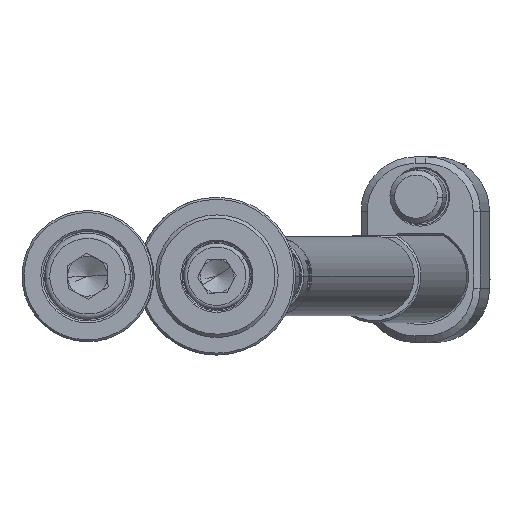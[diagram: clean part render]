
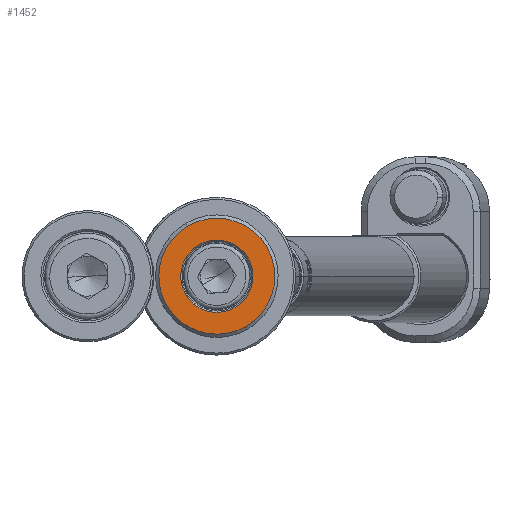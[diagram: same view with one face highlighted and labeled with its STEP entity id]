
A CAD part, front view. The second image highlights one B-rep face of the part: STEP entity #1452.
In plain terms, the highlighted planar face has unit normal (0, -1, 0).
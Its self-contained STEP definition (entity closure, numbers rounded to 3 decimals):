
#8 = CARTESIAN_POINT ( 'NONE',  ( 0., -4., 0. ) ) ;
#398 = DIRECTION ( 'NONE',  ( 0., 1., 0. ) ) ;
#801 = FACE_BOUND ( 'NONE', #5168, .T. ) ;
#1157 = VERTEX_POINT ( 'NONE', #11598 ) ;
#1166 = DIRECTION ( 'NONE',  ( 0., -1., 0. ) ) ;
#1180 = DIRECTION ( 'NONE',  ( -0.505, 0., 0.863 ) ) ;
#1452 = ADVANCED_FACE ( 'NONE', ( #801, #5248 ), #9692, .F. ) ;
#1716 = AXIS2_PLACEMENT_3D ( 'NONE', #2007, #8477, #6155 ) ;
#1943 = ORIENTED_EDGE ( 'NONE', *, *, #3339, .T. ) ;
#2007 = CARTESIAN_POINT ( 'NONE',  ( 0., -4., 0. ) ) ;
#2180 = AXIS2_PLACEMENT_3D ( 'NONE', #7395, #5300, #7624 ) ;
#2724 = AXIS2_PLACEMENT_3D ( 'NONE', #4497, #13162, #1180 ) ;
#3339 = EDGE_CURVE ( 'NONE', #5772, #13463, #9667, .T. ) ;
#3365 = AXIS2_PLACEMENT_3D ( 'NONE', #8, #1166, #11171 ) ;
#3389 = AXIS2_PLACEMENT_3D ( 'NONE', #8121, #398, #3738 ) ;
#3738 = DIRECTION ( 'NONE',  ( -0.505, 0., 0.863 ) ) ;
#4497 = CARTESIAN_POINT ( 'NONE',  ( -4.531, -4., -2.652 ) ) ;
#5168 = EDGE_LOOP ( 'NONE', ( #6219, #1943 ) ) ;
#5248 = FACE_OUTER_BOUND ( 'NONE', #13640, .T. ) ;
#5300 = DIRECTION ( 'NONE',  ( 0., -1., 0. ) ) ;
#5490 = EDGE_CURVE ( 'NONE', #13045, #1157, #6349, .T. ) ;
#5676 = CIRCLE ( 'NONE', #1716, 5.45 ) ;
#5772 = VERTEX_POINT ( 'NONE', #8782 ) ;
#6155 = DIRECTION ( 'NONE',  ( -0.505, 0., 0.863 ) ) ;
#6219 = ORIENTED_EDGE ( 'NONE', *, *, #8737, .T. ) ;
#6349 = CIRCLE ( 'NONE', #2180, 8.75 ) ;
#7395 = CARTESIAN_POINT ( 'NONE',  ( 0., -4., 0. ) ) ;
#7470 = ORIENTED_EDGE ( 'NONE', *, *, #12043, .T. ) ;
#7624 = DIRECTION ( 'NONE',  ( -0.505, 0., 0.863 ) ) ;
#8121 = CARTESIAN_POINT ( 'NONE',  ( 0., -4., 0. ) ) ;
#8268 = ORIENTED_EDGE ( 'NONE', *, *, #5490, .T. ) ;
#8477 = DIRECTION ( 'NONE',  ( 0., 1., 0. ) ) ;
#8737 = EDGE_CURVE ( 'NONE', #13463, #5772, #5676, .T. ) ;
#8782 = CARTESIAN_POINT ( 'NONE',  ( -2.753, -4., 4.704 ) ) ;
#9667 = CIRCLE ( 'NONE', #3389, 5.45 ) ;
#9692 = PLANE ( 'NONE',  #2724 ) ;
#10479 = CARTESIAN_POINT ( 'NONE',  ( 2.753, -4., -4.704 ) ) ;
#11171 = DIRECTION ( 'NONE',  ( -0.505, 0., 0.863 ) ) ;
#11598 = CARTESIAN_POINT ( 'NONE',  ( -4.42, -4., 7.552 ) ) ;
#12043 = EDGE_CURVE ( 'NONE', #1157, #13045, #13338, .T. ) ;
#13045 = VERTEX_POINT ( 'NONE', #13443 ) ;
#13162 = DIRECTION ( 'NONE',  ( 0., 1., 0. ) ) ;
#13338 = CIRCLE ( 'NONE', #3365, 8.75 ) ;
#13443 = CARTESIAN_POINT ( 'NONE',  ( 4.42, -4., -7.552 ) ) ;
#13463 = VERTEX_POINT ( 'NONE', #10479 ) ;
#13640 = EDGE_LOOP ( 'NONE', ( #7470, #8268 ) ) ;
